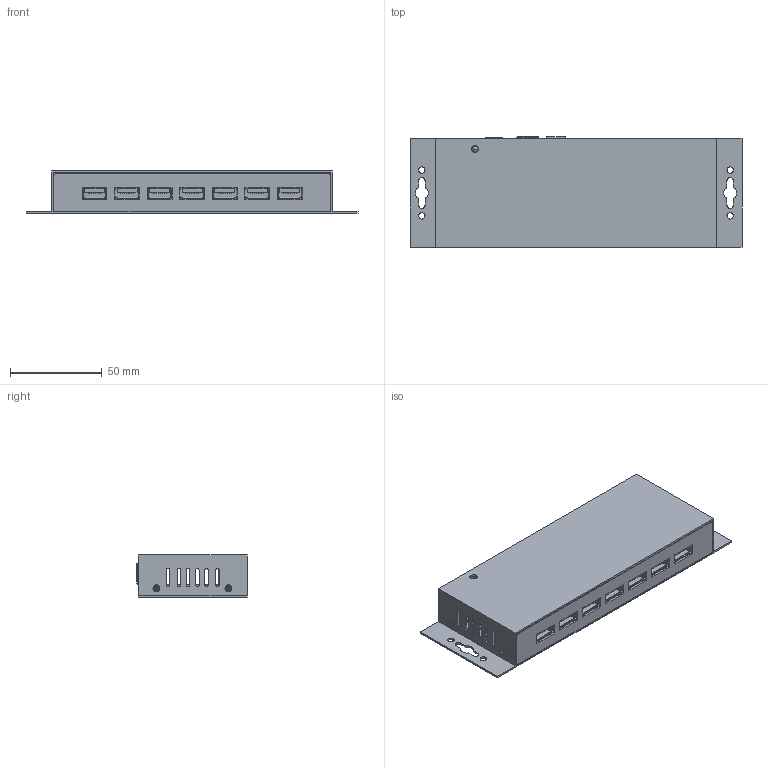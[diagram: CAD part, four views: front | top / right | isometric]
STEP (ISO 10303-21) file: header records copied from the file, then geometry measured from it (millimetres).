
FILE_DESCRIPTION(('FreeCAD Model'),'2;1');
FILE_NAME('Open CASCADE Shape Model','2024-07-05T11:27:17',(''),(''), 'Open CASCADE STEP processor 7.6','FreeCAD','Unknown');
FILE_SCHEMA(('AUTOMOTIVE_DESIGN { 1 0 10303 214 1 1 1 1 }'));
Products named in the file (1): EX-1177-2_3D
Bounding box: 181 x 60.32 x 22.9 mm (x, y, z)
Volume: 48989.8 mm3; surface area: 92860.9 mm2
Topology: 2 solids, 6 shells, 2964 faces, 8629 edges, 5722 vertices
Faces by surface type: plane 2128, cylinder 784, cone 28, bspline 13, torus 8, sphere 2, revolution 1
Full cylindrical faces by diameter (mm): 1.5 x1, 2 x1, 2.4 x4, 2.5 x4, 2.8 x4, 3.5 x4, 4 x2, 4.7 x1, 5.3 x4, 6 x1
Entity records: 115168 total; most frequent: CARTESIAN_POINT 19985, ORIENTED_EDGE 17250, DIRECTION 16148, EDGE_CURVE 8625, LINE 6663, VECTOR 6663, VERTEX_POINT 5722, AXIS2_PLACEMENT_3D 4742
